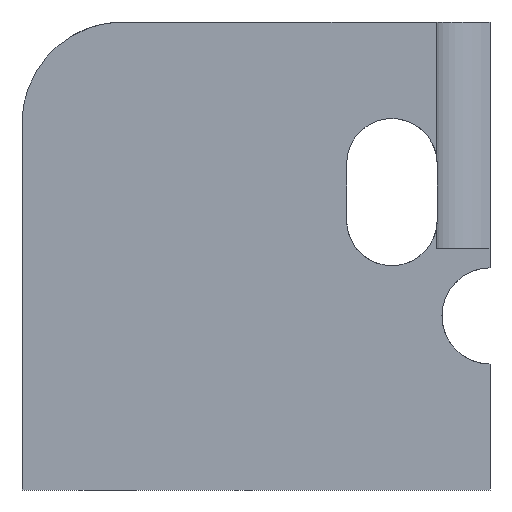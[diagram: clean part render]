
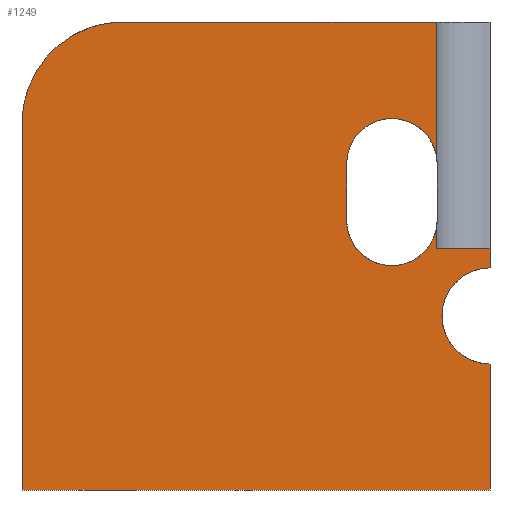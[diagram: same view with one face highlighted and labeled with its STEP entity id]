
A CAD part, front view. The second image highlights one B-rep face of the part: STEP entity #1249.
In plain terms, the highlighted planar face has unit normal (0, -1, 0).
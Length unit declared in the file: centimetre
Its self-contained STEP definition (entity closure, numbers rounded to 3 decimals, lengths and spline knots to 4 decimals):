
#10 = VERTEX_POINT ( 'NONE', #587 ) ;
#31 = DIRECTION ( 'NONE',  ( 0., 0., 1. ) ) ;
#37 = CARTESIAN_POINT ( 'NONE',  ( 693.6155, 0., 697.2011 ) ) ;
#42 = CARTESIAN_POINT ( 'NONE',  ( 215.5656, 0., 784.4344 ) ) ;
#50 = CARTESIAN_POINT ( 'NONE',  ( 1000., 0., 1000. ) ) ;
#55 = LINE ( 'NONE', #185, #1414 ) ;
#61 = DIRECTION ( 'NONE',  ( 0., -1., 0. ) ) ;
#68 = DIRECTION ( 'NONE',  ( 0., 0., -1. ) ) ;
#69 = CARTESIAN_POINT ( 'NONE',  ( 884.7393, 0., 516.3339 ) ) ;
#125 = ORIENTED_EDGE ( 'NONE', *, *, #1521, .F. ) ;
#145 = CIRCLE ( 'NONE', #1038, 96.6895 ) ;
#147 = ORIENTED_EDGE ( 'NONE', *, *, #263, .F. ) ;
#156 = CARTESIAN_POINT ( 'NONE',  ( 790.305, 0., 697.2011 ) ) ;
#157 = VERTEX_POINT ( 'NONE', #37 ) ;
#162 = VERTEX_POINT ( 'NONE', #290 ) ;
#177 = CIRCLE ( 'NONE', #1462, 102.6763 ) ;
#185 = CARTESIAN_POINT ( 'NONE',  ( 0., 0., 1000. ) ) ;
#187 = DIRECTION ( 'NONE',  ( 1., 0., 0. ) ) ;
#195 = DIRECTION ( 'NONE',  ( 0., 1., 0. ) ) ;
#205 = CARTESIAN_POINT ( 'NONE',  ( 1000., 0., 1000. ) ) ;
#215 = DIRECTION ( 'NONE',  ( 0., 0., -1. ) ) ;
#218 = VERTEX_POINT ( 'NONE', #868 ) ;
#237 = CARTESIAN_POINT ( 'NONE',  ( 884.7393, 0., 717.9623 ) ) ;
#240 = CARTESIAN_POINT ( 'NONE',  ( 884.7393, 0., 1000. ) ) ;
#263 = EDGE_CURVE ( 'NONE', #1426, #162, #177, .T. ) ;
#285 = FACE_OUTER_BOUND ( 'NONE', #603, .T. ) ;
#290 = CARTESIAN_POINT ( 'NONE',  ( 1000., 0., 269.2144 ) ) ;
#293 = LINE ( 'NONE', #50, #1288 ) ;
#304 = PLANE ( 'NONE',  #859 ) ;
#314 = CARTESIAN_POINT ( 'NONE',  ( 1000., 0., 371.8907 ) ) ;
#341 = CARTESIAN_POINT ( 'NONE',  ( 0., 0., 1000. ) ) ;
#350 = DIRECTION ( 'NONE',  ( 0., 0., 1. ) ) ;
#374 = CARTESIAN_POINT ( 'NONE',  ( 884.7393, 0., 516.3339 ) ) ;
#377 = AXIS2_PLACEMENT_3D ( 'NONE', #156, #633, #1124 ) ;
#387 = VERTEX_POINT ( 'NONE', #237 ) ;
#407 = DIRECTION ( 'NONE',  ( 0., 0., 1. ) ) ;
#411 = ORIENTED_EDGE ( 'NONE', *, *, #413, .F. ) ;
#413 = EDGE_CURVE ( 'NONE', #829, #1426, #472, .T. ) ;
#431 = VECTOR ( 'NONE', #1522, 100. ) ;
#440 = CARTESIAN_POINT ( 'NONE',  ( 215.5656, 0., 1000. ) ) ;
#470 = ORIENTED_EDGE ( 'NONE', *, *, #1258, .F. ) ;
#472 = LINE ( 'NONE', #205, #1306 ) ;
#474 = CARTESIAN_POINT ( 'NONE',  ( 790.305, 0., 697.2011 ) ) ;
#484 = DIRECTION ( 'NONE',  ( 0., 1., 0. ) ) ;
#513 = ORIENTED_EDGE ( 'NONE', *, *, #660, .T. ) ;
#538 = EDGE_CURVE ( 'NONE', #1411, #157, #1079, .T. ) ;
#540 = VERTEX_POINT ( 'NONE', #240 ) ;
#543 = LINE ( 'NONE', #1031, #988 ) ;
#550 = AXIS2_PLACEMENT_3D ( 'NONE', #474, #484, #1473 ) ;
#560 = DIRECTION ( 'NONE',  ( 0., 0., 1. ) ) ;
#570 = EDGE_CURVE ( 'NONE', #857, #1411, #145, .T. ) ;
#587 = CARTESIAN_POINT ( 'NONE',  ( 0., 0., 0. ) ) ;
#601 = VECTOR ( 'NONE', #31, 100. ) ;
#603 = EDGE_LOOP ( 'NONE', ( #470, #147, #411, #1020, #1149, #1330, #738, #1070, #1248, #955, #125, #862, #513, #1067 ) ) ;
#626 = CARTESIAN_POINT ( 'NONE',  ( 693.6155, 0., 575.9075 ) ) ;
#633 = DIRECTION ( 'NONE',  ( 0., 1., 0. ) ) ;
#648 = CARTESIAN_POINT ( 'NONE',  ( 1000., 0., 516.3339 ) ) ;
#660 = EDGE_CURVE ( 'NONE', #218, #10, #1223, .T. ) ;
#663 = VERTEX_POINT ( 'NONE', #374 ) ;
#738 = ORIENTED_EDGE ( 'NONE', *, *, #538, .T. ) ;
#766 = CARTESIAN_POINT ( 'NONE',  ( 0., 0., 1000. ) ) ;
#784 = DIRECTION ( 'NONE',  ( 0., 1., 0. ) ) ;
#801 = CARTESIAN_POINT ( 'NONE',  ( 790.305, 0., 575.9075 ) ) ;
#829 = VERTEX_POINT ( 'NONE', #648 ) ;
#845 = EDGE_CURVE ( 'NONE', #1322, #218, #1309, .T. ) ;
#857 = VERTEX_POINT ( 'NONE', #895 ) ;
#859 = AXIS2_PLACEMENT_3D ( 'NONE', #766, #784, #407 ) ;
#862 = ORIENTED_EDGE ( 'NONE', *, *, #845, .T. ) ;
#868 = CARTESIAN_POINT ( 'NONE',  ( 0., 0., 784.4344 ) ) ;
#882 = VERTEX_POINT ( 'NONE', #1029 ) ;
#885 = VECTOR ( 'NONE', #187, 100. ) ;
#895 = CARTESIAN_POINT ( 'NONE',  ( 884.7393, 0., 555.1463 ) ) ;
#901 = LINE ( 'NONE', #1122, #601 ) ;
#904 = LINE ( 'NONE', #69, #431 ) ;
#917 = AXIS2_PLACEMENT_3D ( 'NONE', #42, #61, #1389 ) ;
#924 = EDGE_CURVE ( 'NONE', #387, #540, #904, .T. ) ;
#955 = ORIENTED_EDGE ( 'NONE', *, *, #924, .T. ) ;
#974 = VERTEX_POINT ( 'NONE', #1112 ) ;
#988 = VECTOR ( 'NONE', #1253, 100. ) ;
#989 = DIRECTION ( 'NONE',  ( 0., 0., -1. ) ) ;
#1020 = ORIENTED_EDGE ( 'NONE', *, *, #1520, .F. ) ;
#1027 = CARTESIAN_POINT ( 'NONE',  ( 0., 0., 0. ) ) ;
#1029 = CARTESIAN_POINT ( 'NONE',  ( 790.305, 0., 793.8907 ) ) ;
#1031 = CARTESIAN_POINT ( 'NONE',  ( 0., 0., 516.3339 ) ) ;
#1038 = AXIS2_PLACEMENT_3D ( 'NONE', #801, #195, #560 ) ;
#1067 = ORIENTED_EDGE ( 'NONE', *, *, #1176, .T. ) ;
#1070 = ORIENTED_EDGE ( 'NONE', *, *, #1554, .T. ) ;
#1079 = LINE ( 'NONE', #1103, #1087 ) ;
#1087 = VECTOR ( 'NONE', #350, 100. ) ;
#1089 = CIRCLE ( 'NONE', #550, 96.6895 ) ;
#1103 = CARTESIAN_POINT ( 'NONE',  ( 693.6155, 0., 575.9075 ) ) ;
#1112 = CARTESIAN_POINT ( 'NONE',  ( 1000., 0., 0. ) ) ;
#1122 = CARTESIAN_POINT ( 'NONE',  ( 884.7393, 0., 516.3339 ) ) ;
#1124 = DIRECTION ( 'NONE',  ( 0., 0., 1. ) ) ;
#1126 = DIRECTION ( 'NONE',  ( 1., 0., 0. ) ) ;
#1143 = CARTESIAN_POINT ( 'NONE',  ( 1000., 0., 474.567 ) ) ;
#1149 = ORIENTED_EDGE ( 'NONE', *, *, #1277, .T. ) ;
#1176 = EDGE_CURVE ( 'NONE', #10, #974, #1493, .T. ) ;
#1223 = LINE ( 'NONE', #341, #1542 ) ;
#1232 = CIRCLE ( 'NONE', #377, 96.6895 ) ;
#1247 = DIRECTION ( 'NONE',  ( 0., 0., -1. ) ) ;
#1248 = ORIENTED_EDGE ( 'NONE', *, *, #1446, .T. ) ;
#1249 = ADVANCED_FACE ( 'NONE', ( #285 ), #304, .F. ) ;
#1253 = DIRECTION ( 'NONE',  ( 1., 0., 0. ) ) ;
#1258 = EDGE_CURVE ( 'NONE', #162, #974, #293, .T. ) ;
#1277 = EDGE_CURVE ( 'NONE', #663, #857, #901, .T. ) ;
#1288 = VECTOR ( 'NONE', #1247, 100. ) ;
#1295 = DIRECTION ( 'NONE',  ( 0., -1., 0. ) ) ;
#1306 = VECTOR ( 'NONE', #68, 100. ) ;
#1309 = CIRCLE ( 'NONE', #917, 215.5656 ) ;
#1322 = VERTEX_POINT ( 'NONE', #440 ) ;
#1330 = ORIENTED_EDGE ( 'NONE', *, *, #570, .T. ) ;
#1389 = DIRECTION ( 'NONE',  ( 0., 0., 1. ) ) ;
#1411 = VERTEX_POINT ( 'NONE', #626 ) ;
#1414 = VECTOR ( 'NONE', #1126, 100. ) ;
#1426 = VERTEX_POINT ( 'NONE', #1143 ) ;
#1446 = EDGE_CURVE ( 'NONE', #882, #387, #1232, .T. ) ;
#1462 = AXIS2_PLACEMENT_3D ( 'NONE', #314, #1295, #215 ) ;
#1473 = DIRECTION ( 'NONE',  ( 0., 0., 1. ) ) ;
#1493 = LINE ( 'NONE', #1027, #885 ) ;
#1520 = EDGE_CURVE ( 'NONE', #663, #829, #543, .T. ) ;
#1521 = EDGE_CURVE ( 'NONE', #1322, #540, #55, .T. ) ;
#1522 = DIRECTION ( 'NONE',  ( 0., 0., 1. ) ) ;
#1542 = VECTOR ( 'NONE', #989, 100. ) ;
#1554 = EDGE_CURVE ( 'NONE', #157, #882, #1089, .T. ) ;
